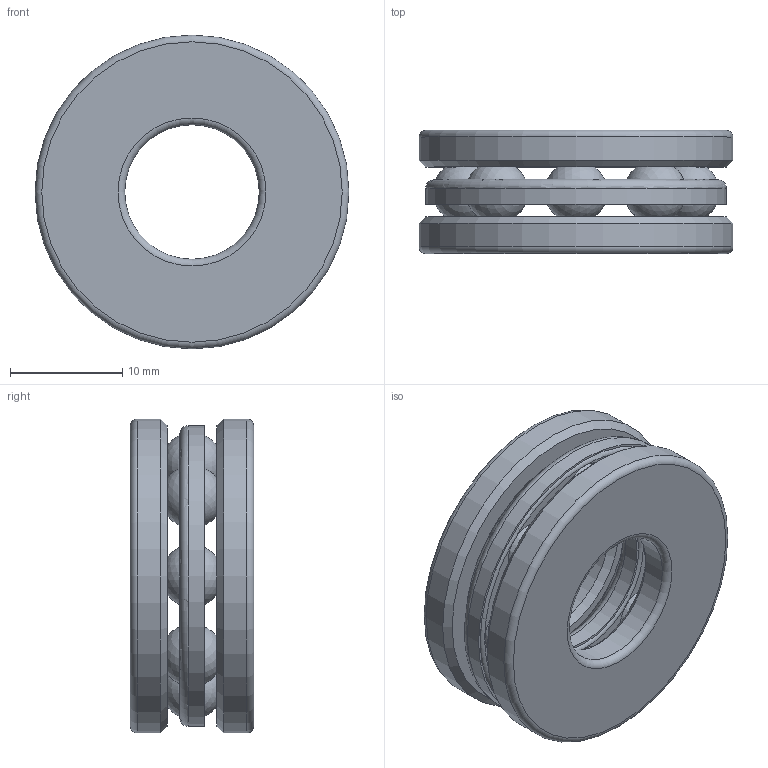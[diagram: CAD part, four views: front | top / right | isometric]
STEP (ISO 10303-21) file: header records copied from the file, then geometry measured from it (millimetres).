
FILE_DESCRIPTION(/* description */ (''),/* implementation_level */ '2;1');
FILE_NAME(/* name */ 'D:\moje\parametrické\512--\512--_\51201.stp',/* time_stamp */ '2016-07-11T14:52:55+02:00',/* author */ ('OUBALASKO'),/* organization */ (''),/* preprocessor_version */ 'ST-DEVELOPER v15.6',/* originating_system */ 'Autodesk Inventor 2015',/* authorisation */ '');
FILE_SCHEMA (('AUTOMOTIVE_DESIGN { 1 0 10303 214 3 1 1 }'));
Length unit declared in the file: millimetre
Products named in the file (7): 51201-HK; 51201-TK; 51201-ball; 51201-cage01; 51201-cage02; 51201-cage; 51201
Assembly tree (13 placements, depth 3):
  51201
    51201-HK
    51201-TK
    51201-ball  x8
    51201-cage
      51201-cage01
      51201-cage02
Bounding box: 28 x 11 x 28 mm (x, y, z)
Volume: 3814.1 mm3; surface area: 5169.6 mm2
Topology: 12 solids, 12 shells, 114 faces, 242 edges, 140 vertices
Faces by surface type: plane 60, sphere 24, torus 14, cylinder 12, cone 4
Full cylindrical faces by diameter (mm): 12 x1, 13.188 x1, 13.577 x1, 13.777 x1, 14 x1, 14.166 x1, 25.834 x1, 26.223 x1, 26.423 x1, 26.812 x1, 28 x2
Entity records: 2956 total; most frequent: DIRECTION 624, CARTESIAN_POINT 434, ORIENTED_EDGE 370, AXIS2_PLACEMENT_3D 312, CIRCLE 185, EDGE_CURVE 185, EDGE_LOOP 181, VERTEX_POINT 122
